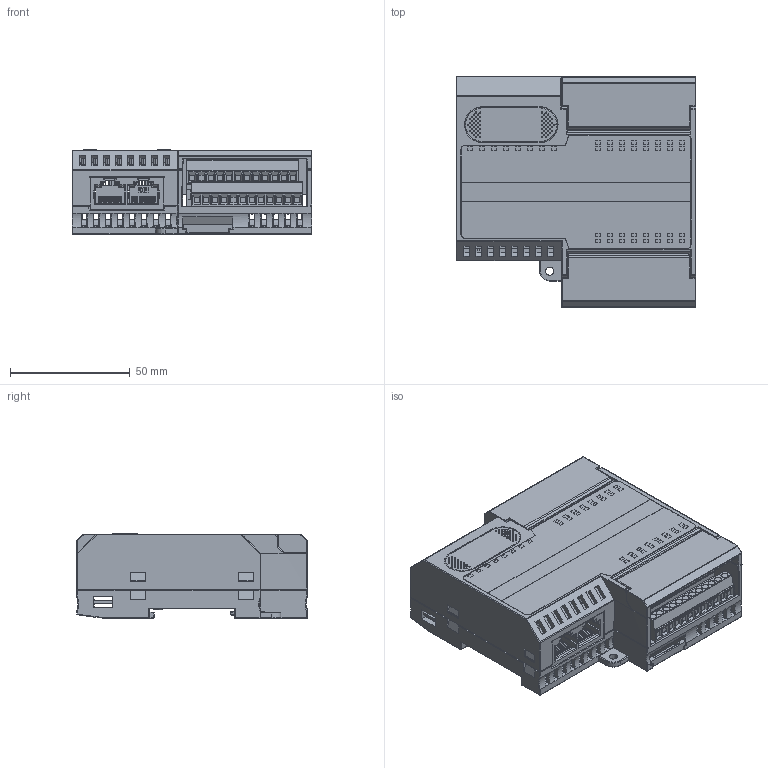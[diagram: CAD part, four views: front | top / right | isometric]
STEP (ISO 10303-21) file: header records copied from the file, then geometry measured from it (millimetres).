
FILE_DESCRIPTION((''),'2;1');
FILE_NAME('EC3_PN3_SW0001','2023-04-19T14:10:57',('董'),(''),'CREO PARAMETRIC BY PTC INC, 2020033','CREO PARAMETRIC BY PTC INC, 2020033','');
FILE_SCHEMA(('CONFIG_CONTROL_DESIGN'));
Products named in the file (1): EC3_PN3_SW0001
Bounding box: 100 x 96 x 35.25 mm (x, y, z)
Volume: 98868.7 mm3; surface area: 106427.6 mm2
Topology: 1 solids, 1 shells, 5924 faces, 16127 edges, 10307 vertices
Faces by surface type: plane 4335, cylinder 1053, sphere 203, cone 144, bspline 94, torus 90, extrusion 5
Entity records: 188091 total; most frequent: CARTESIAN_POINT 39550, ORIENTED_EDGE 31836, DIRECTION 28973, EDGE_CURVE 15918, VECTOR 12545, LINE 12540, VERTEX_POINT 10307, AXIS2_PLACEMENT_3D 8214
